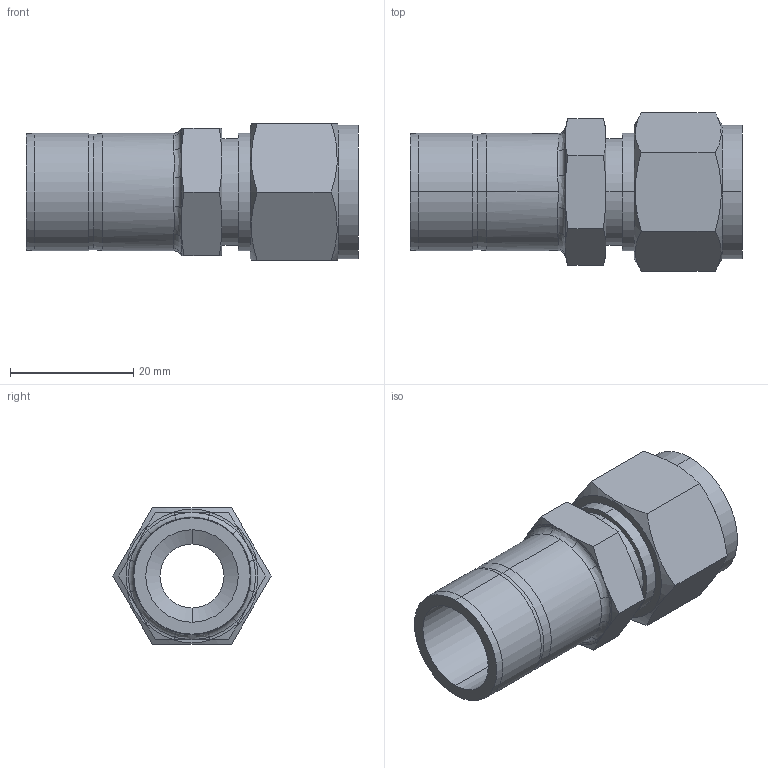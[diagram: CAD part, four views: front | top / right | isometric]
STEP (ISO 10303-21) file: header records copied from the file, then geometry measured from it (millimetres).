
FILE_DESCRIPTION (( 'STEP AP203' ), '1' );
FILE_NAME ('DRE08-12 SS.STEP', '2009-09-08T08:38:23', ( ' ' ), ( '' ), 'SwSTEP 2.0', 'SolidWorks 2008', '' );
FILE_SCHEMA (( 'CONFIG_CONTROL_DESIGN' ));
Length unit declared in the file: millimetre
Products named in the file (1): DRE08-12 SS
Bounding box: 53.9 x 25.67 x 22.23 mm (x, y, z)
Volume: 10275.1 mm3; surface area: 6690.2 mm2
Topology: 1 solids, 1 shells, 78 faces, 176 edges, 104 vertices
Faces by surface type: cone 24, plane 24, cylinder 18, bspline 6, torus 6
Entity records: 2601 total; most frequent: CARTESIAN_POINT 845, ORIENTED_EDGE 352, DIRECTION 348, EDGE_CURVE 176, AXIS2_PLACEMENT_3D 147, VERTEX_POINT 104, EDGE_LOOP 84, FACE_OUTER_BOUND 78
